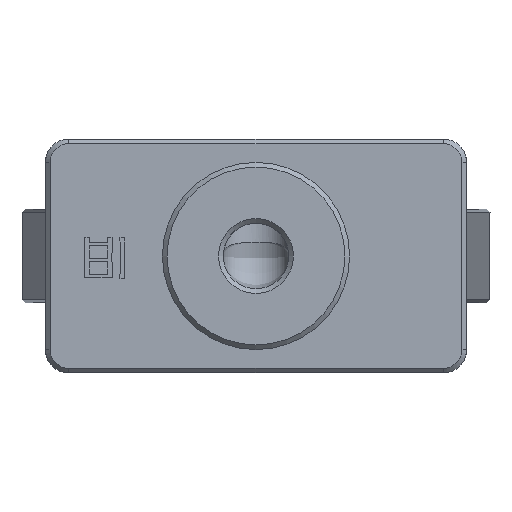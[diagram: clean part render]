
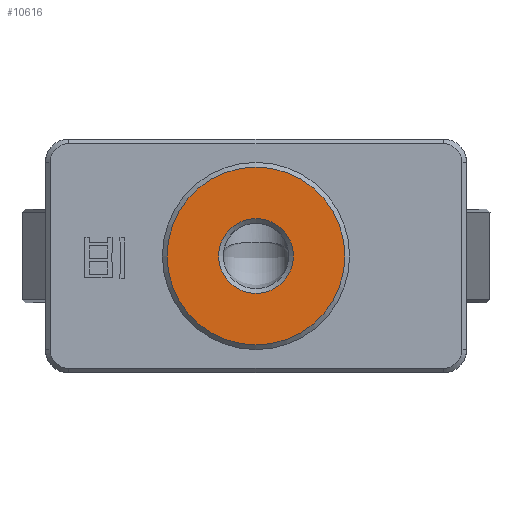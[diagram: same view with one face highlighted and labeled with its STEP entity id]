
A CAD part, front view. The second image highlights one B-rep face of the part: STEP entity #10616.
In plain terms, the highlighted planar face has unit normal (0, -1, 0).
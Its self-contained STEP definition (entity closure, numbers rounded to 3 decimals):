
#10058=FACE_BOUND('',#14684,.T.);
#10059=FACE_BOUND('',#14685,.T.);
#10298=CIRCLE('',#38266,2.4);
#10314=CIRCLE('',#38304,5.7);
#10616=ADVANCED_FACE('',(#10058,#10059),#12023,.T.);
#12023=PLANE('',#38305);
#14684=EDGE_LOOP('',(#16333));
#14685=EDGE_LOOP('',(#16334));
#16333=ORIENTED_EDGE('',*,*,#26944,.F.);
#16334=ORIENTED_EDGE('',*,*,#26889,.T.);
#24224=VERTEX_POINT('',#47176);
#24259=VERTEX_POINT('',#47400);
#26889=EDGE_CURVE('',#24224,#24224,#10298,.T.);
#26944=EDGE_CURVE('',#24259,#24259,#10314,.T.);
#38266=AXIS2_PLACEMENT_3D('',#47175,#39994,#39995);
#38304=AXIS2_PLACEMENT_3D('',#47399,#40105,#40106);
#38305=AXIS2_PLACEMENT_3D('',#47401,#40107,#40108);
#39994=DIRECTION('',(0.,1.,0.));
#39995=DIRECTION('',(0.,0.,-1.));
#40105=DIRECTION('',(0.,1.,0.));
#40106=DIRECTION('',(0.,0.,1.));
#40107=DIRECTION('',(0.,-1.,0.));
#40108=DIRECTION('',(0.,0.,-1.));
#47175=CARTESIAN_POINT('',(-15.668,-58.023,0.));
#47176=CARTESIAN_POINT('',(-15.668,-58.023,-2.4));
#47399=CARTESIAN_POINT('',(-15.668,-58.023,0.));
#47400=CARTESIAN_POINT('',(-15.668,-58.023,5.7));
#47401=CARTESIAN_POINT('',(-15.668,-58.023,0.));
